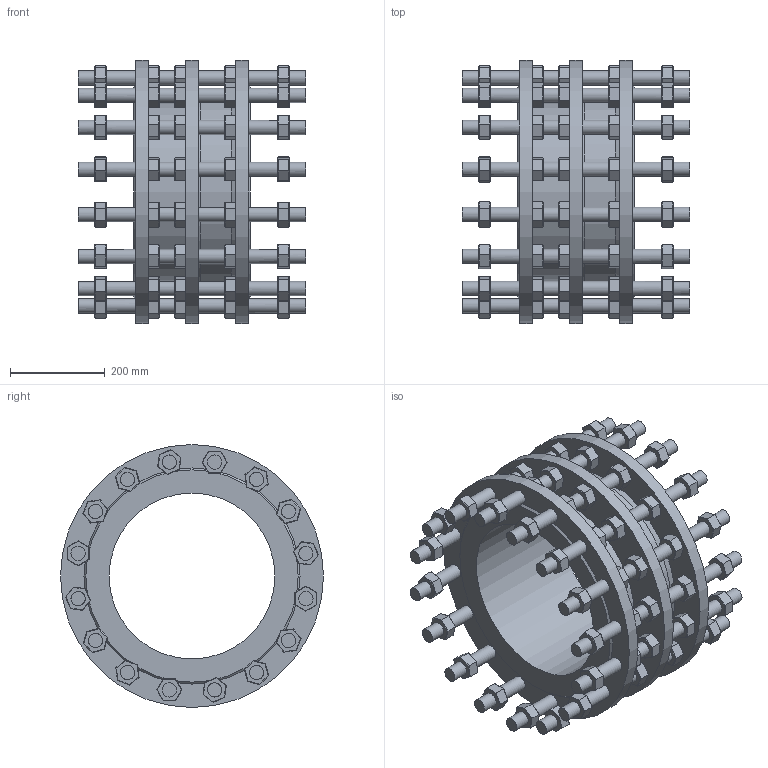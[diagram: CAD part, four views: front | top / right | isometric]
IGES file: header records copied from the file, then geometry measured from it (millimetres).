
Start section: SolidWorks IGES file using analytic representation for surfaces
Global section: file name: X:\AR\CV\873\873-0350-00-741000\873035000741000.IGS; native system: SolidWorks 2020; preprocessor: SolidWorks 2020; author: m.lucatello; date: 211105.103313; units: millimetre
Bounding box: 480 x 555 x 555 mm (x, y, z)
Surface area: 2598380 mm2 (no closed solid volume)
Topology: 0 solids, 0 shells, 1955 faces, 8030 edges, 7716 vertices
Faces by surface type: bspline 1641, revolution 314
